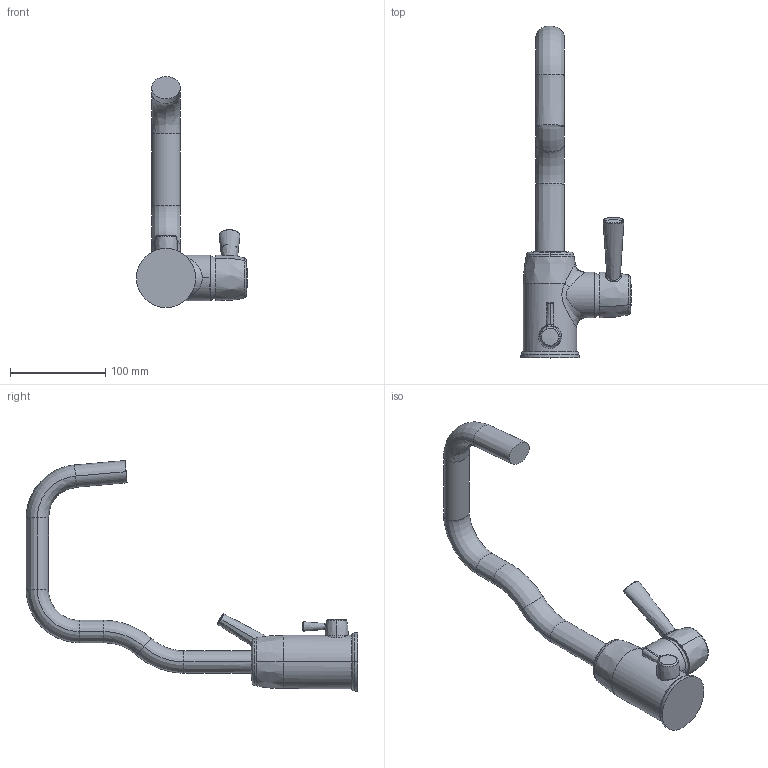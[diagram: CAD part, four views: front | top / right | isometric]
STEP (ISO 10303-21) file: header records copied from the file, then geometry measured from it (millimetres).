
FILE_DESCRIPTION (( 'STEP AP203' ), '1' );
FILE_NAME ('8535+8535F.STEP', '2018-07-11T10:15:09', ( '' ), ( '' ), 'SwSTEP 2.0', 'SolidWorks 2016', '' );
FILE_SCHEMA (( 'CONFIG_CONTROL_DESIGN' ));
Length unit declared in the file: millimetre
Products named in the file (1): 8535+8535F
Bounding box: 116.63 x 348.6 x 242.7 mm (x, y, z)
Volume: 647998.8 mm3; surface area: 76647.7 mm2
Topology: 1 solids, 1 shells, 74 faces, 171 edges, 103 vertices
Faces by surface type: bspline 45, torus 14, cylinder 6, plane 6, cone 2, sphere 1
Entity records: 10487 total; most frequent: CARTESIAN_POINT 9122, ORIENTED_EDGE 334, DIRECTION 180, EDGE_CURVE 167, VERTEX_POINT 102, AXIS2_PLACEMENT_3D 86, EDGE_LOOP 81, B_SPLINE_CURVE_WITH_KNOTS 77
